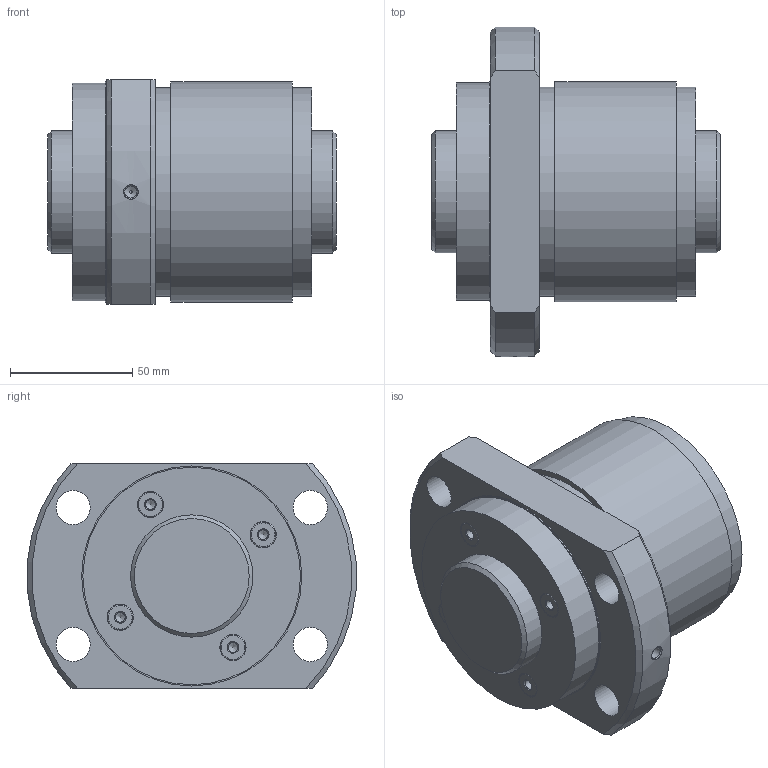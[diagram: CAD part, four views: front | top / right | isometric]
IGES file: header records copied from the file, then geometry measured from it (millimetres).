
Start section: Data from Parasolid IGES Translator 26.0.171, Copyright(c) 2006 Siemens PLM Software. All Rights Reserved.
Global section: file name: WGF50100-1G1+118LC3_0_13_0_0.igs; native system: By Siemens PLM Incorporated; preprocessor: XPlus GENERIC/IGES 26.0.171; author: Noname; organization: Noname; date: 20250116.062832; units: millimetre
Bounding box: 118 x 134.77 x 92 mm (x, y, z)
Surface area: 92851.5 mm2 (no closed solid volume)
Topology: 0 solids, 0 shells, 65 faces, 272 edges, 211 vertices
Faces by surface type: revolution 46, extrusion 19
